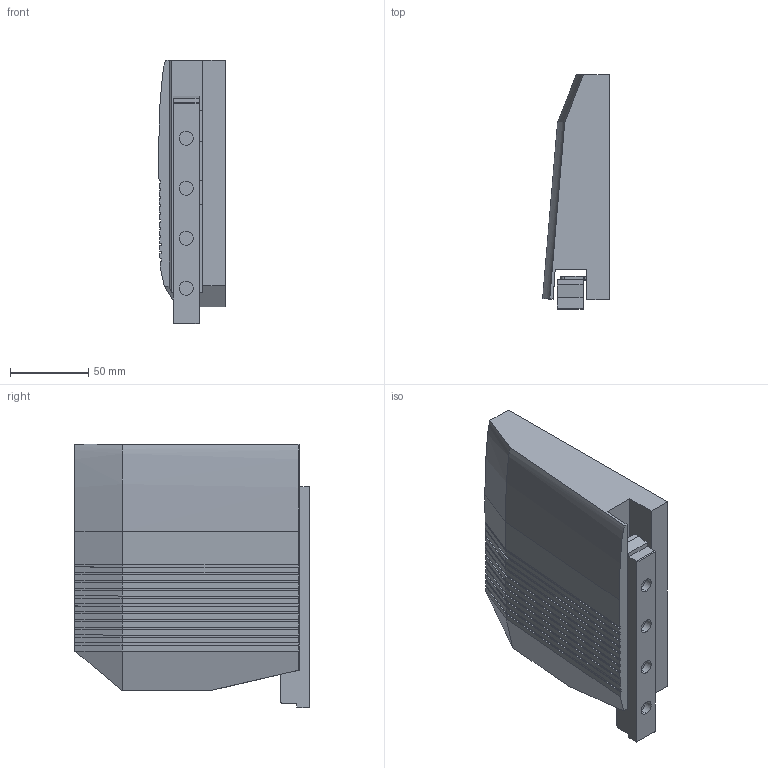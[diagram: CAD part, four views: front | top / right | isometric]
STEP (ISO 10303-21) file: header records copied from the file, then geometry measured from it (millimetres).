
FILE_DESCRIPTION (( 'STEP AP203' ), '1' );
FILE_NAME ('Kinvaro_T-71_rechts_D2722004325~a.step', '2012-05-04T06:52:43', ( 'admin' ), ( 'Hewlett-Packard Company' ), 'SwSTEP 2.0', 'SolidWorks 2011', '' );
FILE_SCHEMA (( 'CONFIG_CONTROL_DESIGN' ));
Length unit declared in the file: millimetre
Products named in the file (1): Kinvaro_T-71_rechts_D2722004325~a
Bounding box: 42.75 x 149.92 x 168.79 mm (x, y, z)
Volume: 741167.6 mm3; surface area: 81637.3 mm2
Topology: 1 solids, 1 shells, 183 faces, 495 edges, 320 vertices
Faces by surface type: plane 155, cylinder 26, bspline 2
Entity records: 5799 total; most frequent: CARTESIAN_POINT 1079, ORIENTED_EDGE 990, DIRECTION 909, EDGE_CURVE 495, VECTOR 439, LINE 439, VERTEX_POINT 320, AXIS2_PLACEMENT_3D 235
